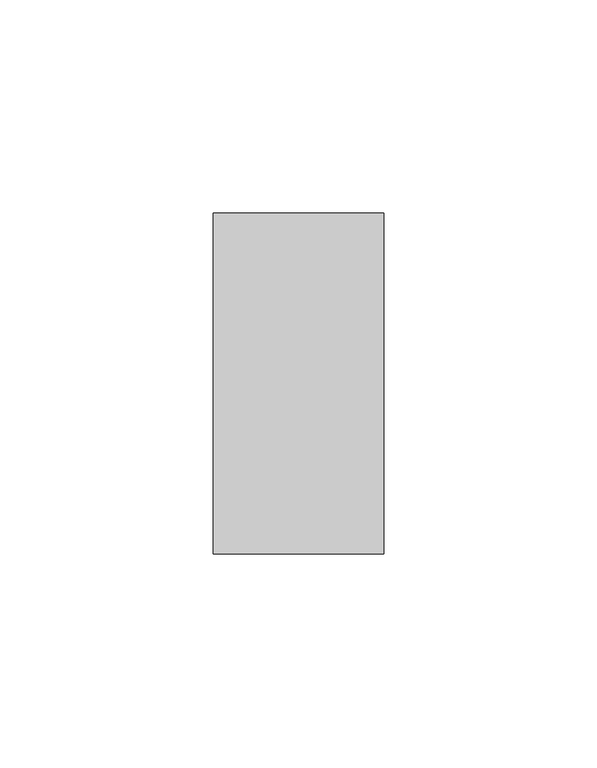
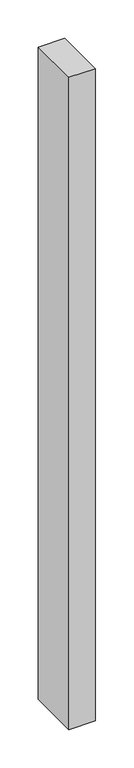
"""IFC4 building model written with IfcOpenShell, lengths in millimetres: member geometry, Obdélníková příčel : VERTI PANORAMA - vertikální."""

from ifc_helpers import new_model, si_unit, frame, origin, place, context, project, spatial, polyline, outline, extrude, source, transform, mapped, element, save


def member_3708038d(model_context):
    return source(origin(), model_context, "Body", "SweptSolid", [
        extrude(outline(polyline([(0.0, 40.0), (0.0, -40.0), (-40.0, -40.0), (-40.0, 40.0), (0.0, 40.0)])), frame((0.0, 0.0, -1040.0), z_axis=(0.0, 0.0, 1.0), x_axis=(1.0, 0.0, 0.0)), (0.0, 0.0, 1.0), 1040.0),
    ])


if __name__ == "__main__":
    model = new_model("IFC4")
    model_context = context("Model", 3, world=origin())
    ifc_project = project(units=[si_unit("LENGTHUNIT", "METRE", prefix="MILLI")], contexts=[model_context])
    site = spatial("IfcSite", under=ifc_project)
    building = spatial("IfcBuilding", under=site)
    placement = place(None, origin())
    member_shape = member_3708038d(model_context)
    element("IfcMember", 1, ObjectType="Obdélníková příčel : VERTI PANORAMA - vertikální", at=placement, inside=building, context=model_context, shape_type="MappedRepresentation", body=[
        mapped(member_shape, transform((0.0, 0.0, 0.0), x_axis=(1.0, 0.0, 0.0), y_axis=(0.0, 1.0, 0.0), z_axis=(0.0, 0.0, 1.0))),
    ])
    save(model, "model.ifc")
